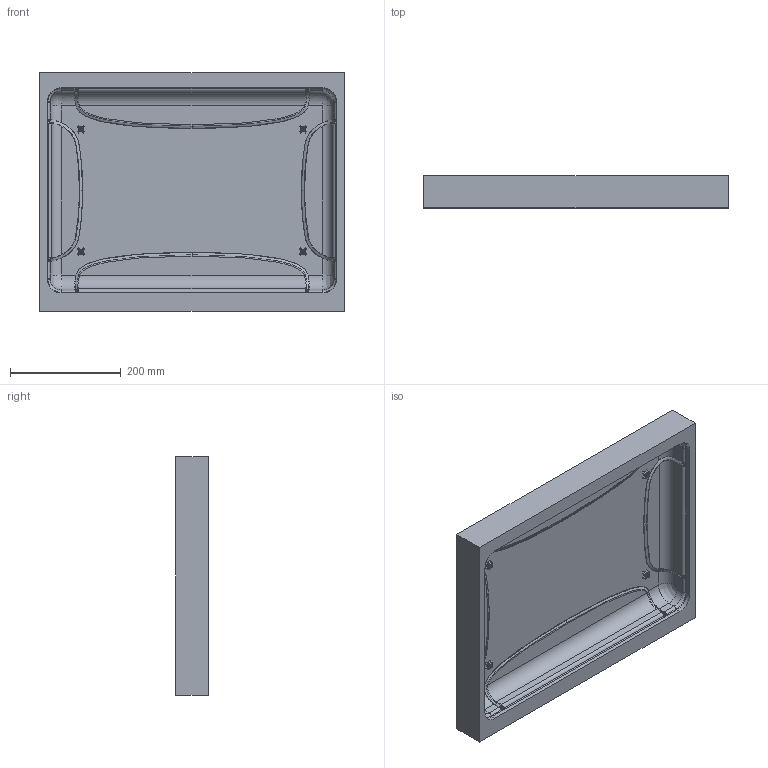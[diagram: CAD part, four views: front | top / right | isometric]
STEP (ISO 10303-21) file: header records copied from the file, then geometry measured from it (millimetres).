
FILE_DESCRIPTION (( 'STEP AP203' ), '1' );
FILE_NAME ('NANUK_940_Top.STEP', '2018-10-01T18:25:04', ( '' ), ( '' ), 'SwSTEP 2.0', 'SolidWorks 2015', '' );
FILE_SCHEMA (( 'CONFIG_CONTROL_DESIGN' ));
Products named in the file (1): NANUK_940_Top
Bounding box: 549.72 x 57.84 x 429.23 mm (x, y, z)
Volume: 4291752.5 mm3; surface area: 652075.5 mm2
Topology: 1 solids, 1 shells, 535 faces, 1280 edges, 756 vertices
Faces by surface type: bspline 248, cylinder 136, plane 83, cone 32, torus 32, sphere 4
Entity records: 48611 total; most frequent: CARTESIAN_POINT 38064, ORIENTED_EDGE 2560, DIRECTION 1752, EDGE_CURVE 1280, VERTEX_POINT 756, AXIS2_PLACEMENT_3D 712, EDGE_LOOP 544, FACE_OUTER_BOUND 535
